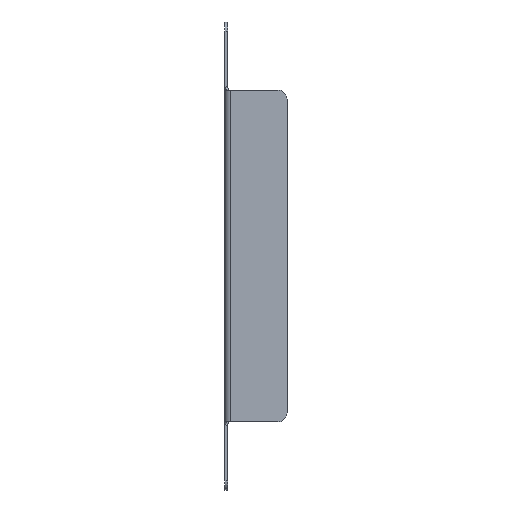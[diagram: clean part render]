
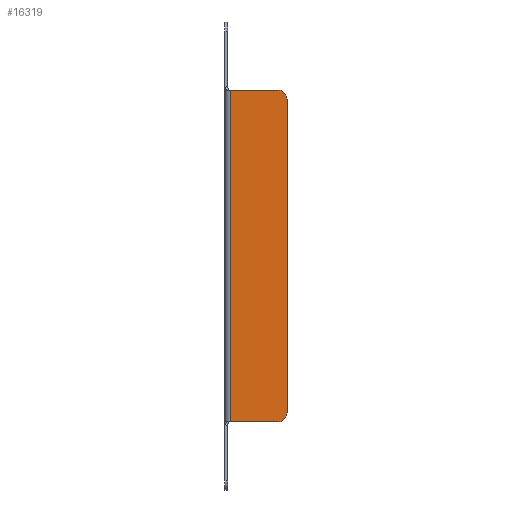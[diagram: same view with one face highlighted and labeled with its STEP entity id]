
A CAD part, left-side view. The second image highlights one B-rep face of the part: STEP entity #16319.
In plain terms, the highlighted planar face has unit normal (-1, 0, 0).
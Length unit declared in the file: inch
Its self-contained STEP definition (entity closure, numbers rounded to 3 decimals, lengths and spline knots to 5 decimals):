
#2121=DIRECTION('',(0.,0.,-1.));
#2122=VECTOR('',#2121,9.08);
#2123=CARTESIAN_POINT('',(-1.47638,-0.158,10.94));
#2124=LINE('',#2123,#2122);
#7997=CARTESIAN_POINT('',(-1.47638,-1.45,2.11));
#7998=DIRECTION('',(-1.,0.,0.));
#7999=DIRECTION('',(0.,0.,-1.));
#8000=AXIS2_PLACEMENT_3D('',#7997,#7998,#7999);
#8005=DIRECTION('',(0.,-1.,0.));
#8006=VECTOR('',#8005,1.292);
#8007=CARTESIAN_POINT('',(-1.47638,-0.158,1.86));
#8008=LINE('',#8007,#8006);
#8012=DIRECTION('',(0.,1.,0.));
#8013=VECTOR('',#8012,1.292);
#8014=CARTESIAN_POINT('',(-1.47638,-1.45,10.94));
#8015=LINE('',#8014,#8013);
#8019=CARTESIAN_POINT('',(-1.47638,-1.45,10.69));
#8020=DIRECTION('',(-1.,0.,0.));
#8021=DIRECTION('',(0.,-1.,0.));
#8022=AXIS2_PLACEMENT_3D('',#8019,#8020,#8021);
#8027=DIRECTION('',(0.,0.,1.));
#8028=VECTOR('',#8027,8.58);
#8029=CARTESIAN_POINT('',(-1.47638,-1.7,2.11));
#8030=LINE('',#8029,#8028);
#8122=CARTESIAN_POINT('',(-1.47638,-0.158,10.94));
#8123=CARTESIAN_POINT('',(-1.47638,-0.158,1.86));
#8124=VERTEX_POINT('',#8122);
#8125=VERTEX_POINT('',#8123);
#8162=CARTESIAN_POINT('',(-1.47638,-1.45,1.86));
#8163=CARTESIAN_POINT('',(-1.47638,-1.7,2.11));
#8164=VERTEX_POINT('',#8162);
#8165=VERTEX_POINT('',#8163);
#8194=CARTESIAN_POINT('',(-1.47638,-1.7,10.69));
#8195=CARTESIAN_POINT('',(-1.47638,-1.45,10.94));
#8196=VERTEX_POINT('',#8194);
#8197=VERTEX_POINT('',#8195);
#16303=CARTESIAN_POINT('',(-1.47638,0.,0.));
#16304=DIRECTION('',(-1.,0.,0.));
#16305=DIRECTION('',(0.,0.,-1.));
#16306=AXIS2_PLACEMENT_3D('',#16303,#16304,#16305);
#16307=PLANE('',#16306);
#16308=ORIENTED_EDGE('',*,*,#16293,.F.);
#16309=ORIENTED_EDGE('',*,*,#16283,.F.);
#16310=ORIENTED_EDGE('',*,*,#10557,.F.);
#16312=ORIENTED_EDGE('',*,*,#16311,.F.);
#16314=ORIENTED_EDGE('',*,*,#16313,.F.);
#16316=ORIENTED_EDGE('',*,*,#16315,.F.);
#16317=EDGE_LOOP('',(#16308,#16309,#16310,#16312,#16314,#16316));
#16318=FACE_OUTER_BOUND('',#16317,.F.);
#8001=CIRCLE('',#8000,0.25);
#8023=CIRCLE('',#8022,0.25);
#10557=EDGE_CURVE('',#8124,#8125,#2124,.T.);
#16283=EDGE_CURVE('',#8125,#8164,#8008,.T.);
#16293=EDGE_CURVE('',#8164,#8165,#8001,.T.);
#16311=EDGE_CURVE('',#8197,#8124,#8015,.T.);
#16313=EDGE_CURVE('',#8196,#8197,#8023,.T.);
#16315=EDGE_CURVE('',#8165,#8196,#8030,.T.);
#16319=ADVANCED_FACE('',(#16318),#16307,.T.);
